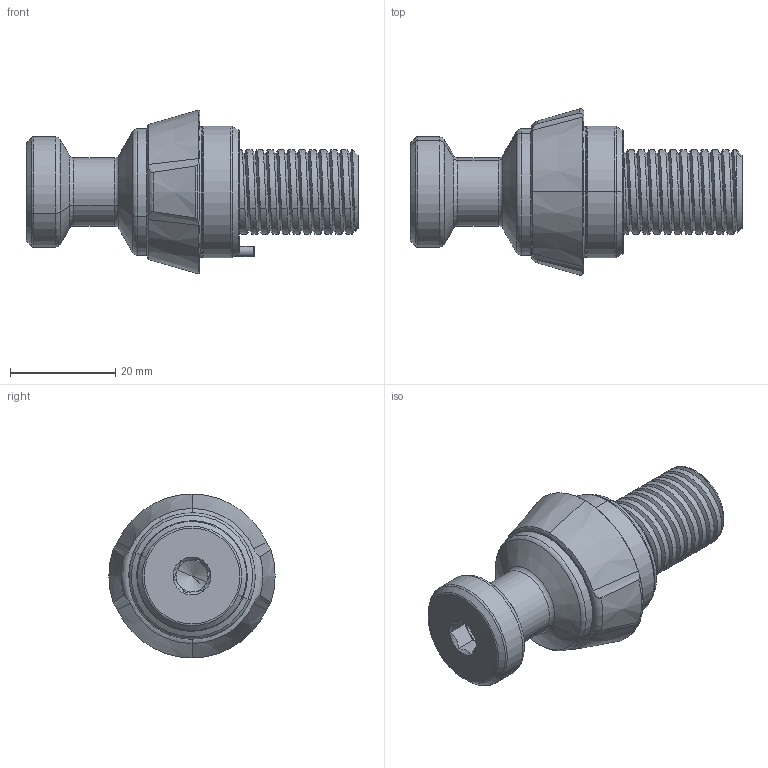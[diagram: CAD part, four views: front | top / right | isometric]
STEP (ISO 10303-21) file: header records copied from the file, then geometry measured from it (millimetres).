
FILE_DESCRIPTION (( 'STEP AP203' ), '1' );
FILE_NAME ('CP80-80T隅砃嶺隊.STEP', '2021-11-08T08:40:24', ( 'set' ), ( '' ), 'SwSTEP 2.0', 'SolidWorks 2018', '' );
FILE_SCHEMA (( 'CONFIG_CONTROL_DESIGN' ));
Length unit declared in the file: millimetre
Products named in the file (1): CP80-80T隅砃嶺隊
Bounding box: 63 x 31.54 x 31.1 mm (x, y, z)
Volume: 19975.6 mm3; surface area: 5903.3 mm2
Topology: 2 solids, 2 shells, 294 faces, 753 edges, 481 vertices
Faces by surface type: plane 104, bspline 83, cylinder 44, cone 40, torus 23
Entity records: 15039 total; most frequent: CARTESIAN_POINT 8533, ORIENTED_EDGE 1502, DIRECTION 1054, EDGE_CURVE 751, VERTEX_POINT 481, LINE 380, VECTOR 380, AXIS2_PLACEMENT_3D 337
